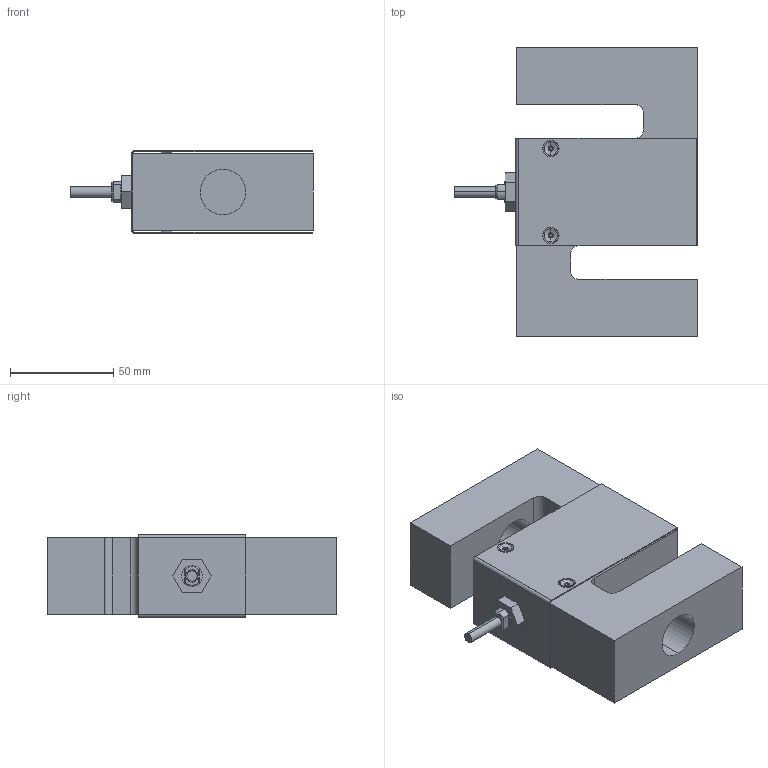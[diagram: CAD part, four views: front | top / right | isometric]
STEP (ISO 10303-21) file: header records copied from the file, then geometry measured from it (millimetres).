
FILE_DESCRIPTION (( 'STEP AP214' ), '1' );
FILE_NAME ('B3G-7.5t assy.STEP', '2012-01-27T09:57:16', ( 'Gebruiker' ), ( 'Microsoft' ), 'SwSTEP 2.0', 'SolidWorks 2011', '' );
FILE_SCHEMA (( 'AUTOMOTIVE_DESIGN' ));
Length unit declared in the file: millimetre
Products named in the file (9): hex thin nut gradeb_iso_Hexagon Nut ISO - 4036 - M10 - S; B3G conduit adaptor; B3G cable; B3G-7.5t gage potting; B3G-7.5t cover; Cover part indrukking; Cover 7.5t; B3G-7.5t element; B3G-7.5t assy
Assembly tree (12 placements, depth 3):
  B3G-7.5t assy
    B3G-7.5t element
    B3G conduit adaptor
    hex thin nut gradeb_iso_Hexagon Nut ISO - 4036 - M10 - S
    B3G-7.5t gage potting  x2
    B3G-7.5t cover
      Cover part indrukking  x4
      Cover 7.5t
    B3G cable
Bounding box: 117.4 x 139.7 x 40 mm (x, y, z)
Volume: 364400.8 mm3; surface area: 83954.6 mm2
Topology: 11 solids, 11 shells, 203 faces, 438 edges, 267 vertices
Faces by surface type: plane 66, cylinder 58, cone 47, torus 32
Entity records: 4585 total; most frequent: DIRECTION 801, CARTESIAN_POINT 706, ORIENTED_EDGE 660, EDGE_CURVE 330, AXIS2_PLACEMENT_3D 314, VERTEX_POINT 203, LINE 173, VECTOR 173
